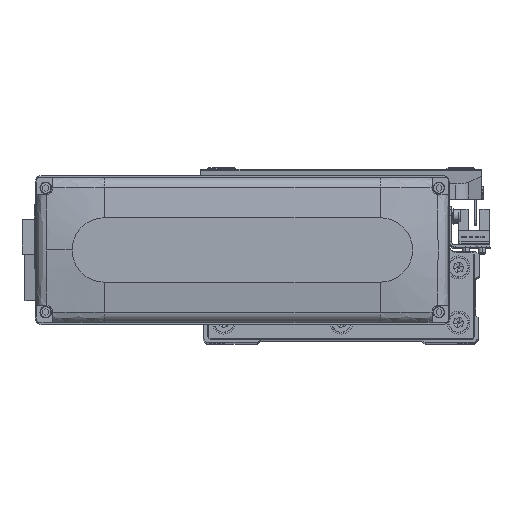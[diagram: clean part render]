
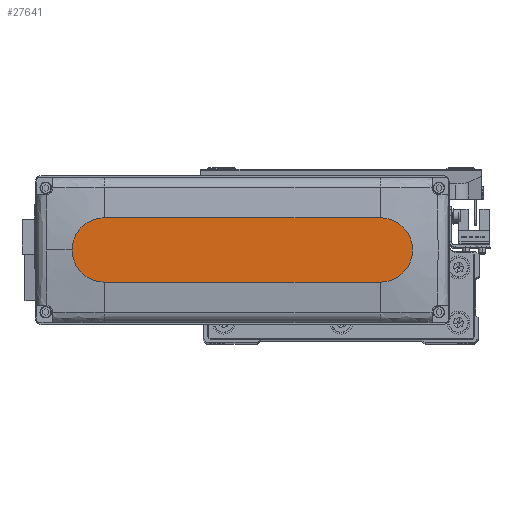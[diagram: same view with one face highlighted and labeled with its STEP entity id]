
A CAD part, top view. The second image highlights one B-rep face of the part: STEP entity #27641.
In plain terms, the highlighted planar face has unit normal (0, 0, 1).
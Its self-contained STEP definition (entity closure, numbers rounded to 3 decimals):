
#1948 = DIRECTION ( 'NONE',  ( 1., 0., 0. ) ) ;
#3594 = DIRECTION ( 'NONE',  ( 1., 0., 0. ) ) ;
#3808 = VECTOR ( 'NONE', #4503, 1000. ) ;
#3834 = CIRCLE ( 'NONE', #32126, 14. ) ;
#4256 = PLANE ( 'NONE',  #12147 ) ;
#4503 = DIRECTION ( 'NONE',  ( -1., 0., 0. ) ) ;
#4790 = DIRECTION ( 'NONE',  ( 1., 0., 0. ) ) ;
#5278 = DIRECTION ( 'NONE',  ( 0., 0., 1. ) ) ;
#5374 = AXIS2_PLACEMENT_3D ( 'NONE', #39181, #5278, #1948 ) ;
#5623 = VERTEX_POINT ( 'NONE', #24633 ) ;
#6023 = EDGE_CURVE ( 'NONE', #5623, #13774, #3834, .T. ) ;
#6468 = DIRECTION ( 'NONE',  ( 1., 0., 0. ) ) ;
#10038 = CARTESIAN_POINT ( 'NONE',  ( 0., 0., 28.5 ) ) ;
#10527 = CARTESIAN_POINT ( 'NONE',  ( 74., 0., 28.5 ) ) ;
#11421 = AXIS2_PLACEMENT_3D ( 'NONE', #36388, #16659, #6468 ) ;
#11927 = ORIENTED_EDGE ( 'NONE', *, *, #31612, .T. ) ;
#12147 = AXIS2_PLACEMENT_3D ( 'NONE', #10038, #37958, #3594 ) ;
#12321 = LINE ( 'NONE', #29158, #18833 ) ;
#13774 = VERTEX_POINT ( 'NONE', #10527 ) ;
#14394 = DIRECTION ( 'NONE',  ( 0., 0., 1. ) ) ;
#14942 = ORIENTED_EDGE ( 'NONE', *, *, #17910, .T. ) ;
#15874 = ORIENTED_EDGE ( 'NONE', *, *, #6023, .T. ) ;
#16659 = DIRECTION ( 'NONE',  ( 0., 0., 1. ) ) ;
#17910 = EDGE_CURVE ( 'NONE', #13774, #22244, #21342, .T. ) ;
#18833 = VECTOR ( 'NONE', #4790, 1000. ) ;
#20852 = ORIENTED_EDGE ( 'NONE', *, *, #25248, .T. ) ;
#21342 = CIRCLE ( 'NONE', #11421, 14. ) ;
#22244 = VERTEX_POINT ( 'NONE', #28560 ) ;
#23467 = DIRECTION ( 'NONE',  ( 1., 0., 0. ) ) ;
#23540 = FACE_OUTER_BOUND ( 'NONE', #29364, .T. ) ;
#24003 = EDGE_CURVE ( 'NONE', #32004, #5623, #12321, .T. ) ;
#24633 = CARTESIAN_POINT ( 'NONE',  ( 60., -14., 28.5 ) ) ;
#25248 = EDGE_CURVE ( 'NONE', #41727, #32004, #32270, .T. ) ;
#26257 = ORIENTED_EDGE ( 'NONE', *, *, #24003, .T. ) ;
#27641 = ADVANCED_FACE ( 'NONE', ( #23540 ), #4256, .T. ) ;
#28560 = CARTESIAN_POINT ( 'NONE',  ( 60., 14., 28.5 ) ) ;
#29158 = CARTESIAN_POINT ( 'NONE',  ( -60., -14., 28.5 ) ) ;
#29364 = EDGE_LOOP ( 'NONE', ( #11927, #20852, #26257, #15874, #14942 ) ) ;
#31612 = EDGE_CURVE ( 'NONE', #22244, #41727, #38199, .T. ) ;
#32004 = VERTEX_POINT ( 'NONE', #33937 ) ;
#32126 = AXIS2_PLACEMENT_3D ( 'NONE', #40524, #14394, #23467 ) ;
#32270 = CIRCLE ( 'NONE', #5374, 14. ) ;
#33937 = CARTESIAN_POINT ( 'NONE',  ( -60., -14., 28.5 ) ) ;
#36388 = CARTESIAN_POINT ( 'NONE',  ( 60., 0., 28.5 ) ) ;
#37958 = DIRECTION ( 'NONE',  ( 0., 0., 1. ) ) ;
#38199 = LINE ( 'NONE', #41078, #3808 ) ;
#39181 = CARTESIAN_POINT ( 'NONE',  ( -60., 0., 28.5 ) ) ;
#40524 = CARTESIAN_POINT ( 'NONE',  ( 60., 0., 28.5 ) ) ;
#41078 = CARTESIAN_POINT ( 'NONE',  ( -60., 14., 28.5 ) ) ;
#41727 = VERTEX_POINT ( 'NONE', #42560 ) ;
#42560 = CARTESIAN_POINT ( 'NONE',  ( -60., 14., 28.5 ) ) ;
